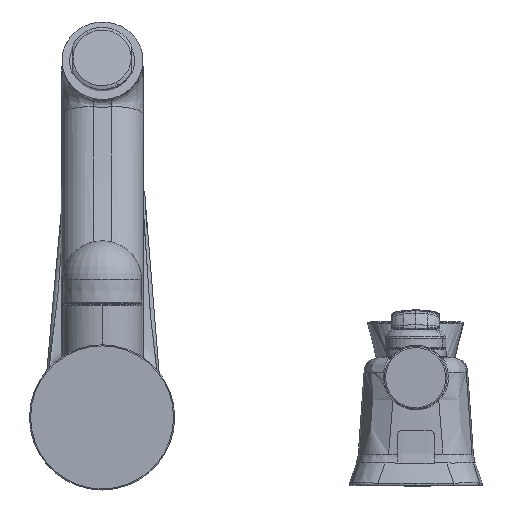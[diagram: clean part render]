
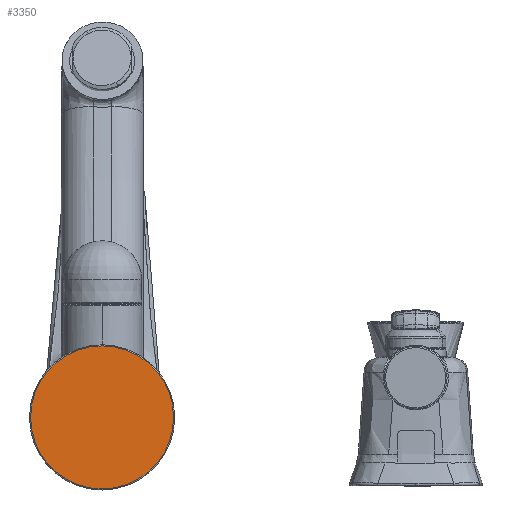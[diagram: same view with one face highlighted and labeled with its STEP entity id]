
A CAD part, front view. The second image highlights one B-rep face of the part: STEP entity #3350.
In plain terms, the highlighted planar face has unit normal (0, -1, 0).
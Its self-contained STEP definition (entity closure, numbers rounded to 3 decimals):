
#2661 = CIRCLE ( 'NONE', #26118, 26.461 ) ;
#3350 = ADVANCED_FACE ( 'NONE', ( #92848 ), #67305, .T. ) ;
#7027 = CARTESIAN_POINT ( 'NONE',  ( 179.089, 357.749, 371.324 ) ) ;
#12777 = CARTESIAN_POINT ( 'NONE',  ( 232.012, 357.749, 371.324 ) ) ;
#14041 = DIRECTION ( 'NONE',  ( 0., -1., 0. ) ) ;
#21817 = CARTESIAN_POINT ( 'NONE',  ( 205.55, 357.749, 371.324 ) ) ;
#22138 = EDGE_CURVE ( 'NONE', #38072, #47749, #37441, .T. ) ;
#24318 = EDGE_CURVE ( 'NONE', #47749, #38072, #2661, .T. ) ;
#26118 = AXIS2_PLACEMENT_3D ( 'NONE', #21817, #71760, #80188 ) ;
#27659 = ORIENTED_EDGE ( 'NONE', *, *, #24318, .T. ) ;
#35096 = CARTESIAN_POINT ( 'NONE',  ( 205.55, 357.749, 371.324 ) ) ;
#37441 = CIRCLE ( 'NONE', #77837, 26.461 ) ;
#38072 = VERTEX_POINT ( 'NONE', #12777 ) ;
#47035 = ORIENTED_EDGE ( 'NONE', *, *, #22138, .T. ) ;
#47749 = VERTEX_POINT ( 'NONE', #7027 ) ;
#53161 = CARTESIAN_POINT ( 'NONE',  ( 181.55, 357.749, 371.324 ) ) ;
#58315 = AXIS2_PLACEMENT_3D ( 'NONE', #53161, #74216, #82332 ) ;
#67305 = PLANE ( 'NONE',  #58315 ) ;
#71760 = DIRECTION ( 'NONE',  ( 0., -1., 0. ) ) ;
#74216 = DIRECTION ( 'NONE',  ( 0., -1., 0. ) ) ;
#77837 = AXIS2_PLACEMENT_3D ( 'NONE', #35096, #14041, #78727 ) ;
#78727 = DIRECTION ( 'NONE',  ( -1., 0., 0. ) ) ;
#80188 = DIRECTION ( 'NONE',  ( -1., 0., 0. ) ) ;
#82332 = DIRECTION ( 'NONE',  ( 0., 0., 1. ) ) ;
#87315 = EDGE_LOOP ( 'NONE', ( #27659, #47035 ) ) ;
#92848 = FACE_OUTER_BOUND ( 'NONE', #87315, .T. ) ;
